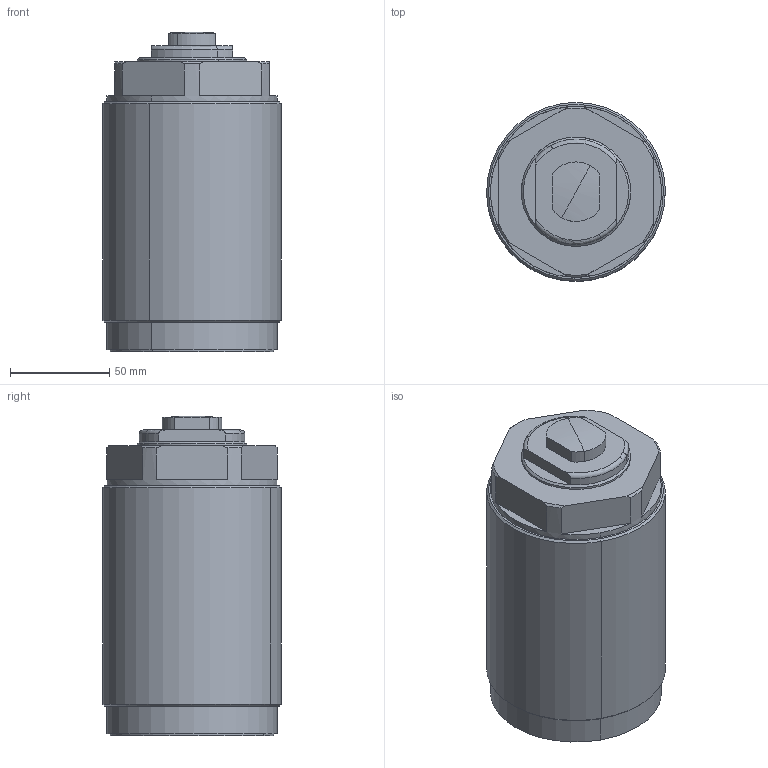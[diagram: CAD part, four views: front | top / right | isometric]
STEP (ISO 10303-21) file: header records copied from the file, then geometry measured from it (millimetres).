
FILE_DESCRIPTION(('CATIA V5 STEP Exchange'),'2;1');
FILE_NAME('\\Kjf-102\KJF_TC\Hydraulic_Clamp\Standard\WORK_SUPPORT\CWS-5520\MOUNTING(X) 배포도면\CWS-55202_B.stp','2026-02-24T00:20:49+00:00',('none'),('none'),'CATIA Version 5 Release 19 SP 9 (IN-10)','CATIA V5 STEP AP203','none');
FILE_SCHEMA(('CONFIG_CONTROL_DESIGN'));
Length unit declared in the file: millimetre
Products named in the file (1): CWS-55202
Assembly tree (6 placements, depth 2):
  CWS-55202
    #58
    #1186
    #1776
    #2548
    #3433
    #3881
Bounding box: 89.97 x 89.97 x 161 mm (x, y, z)
Volume: 900455.7 mm3; surface area: 141798 mm2
Topology: 6 solids, 6 shells, 154 faces, 342 edges, 209 vertices
Faces by surface type: cylinder 60, plane 46, cone 28, torus 14, revolution 4, sphere 2
Entity records: 4041 total; most frequent: CARTESIAN_POINT 835, ORIENTED_EDGE 672, DIRECTION 500, EDGE_CURVE 336, AXIS2_PLACEMENT_3D 282, VERTEX_POINT 209, CIRCLE 188, EDGE_LOOP 177
